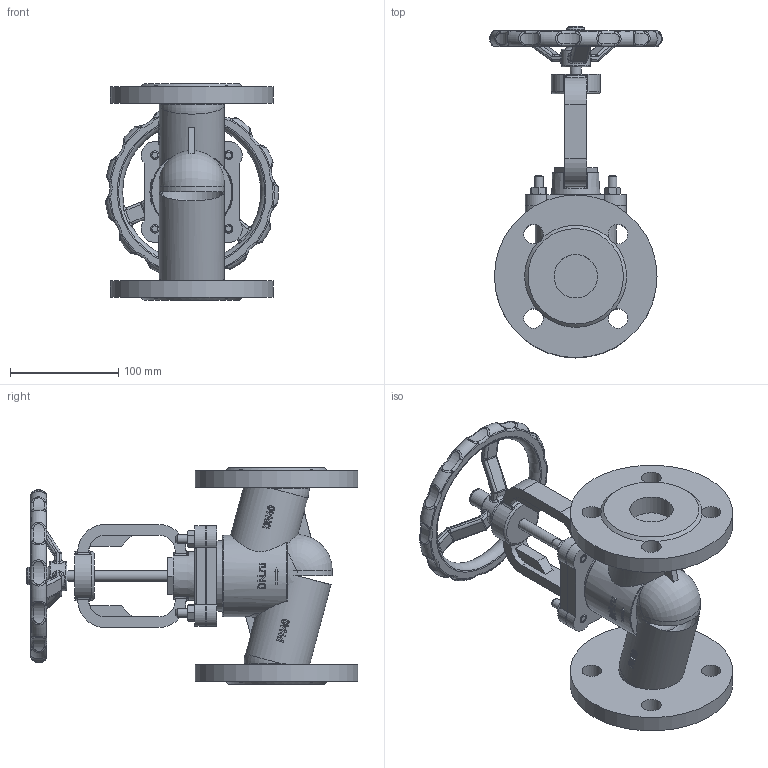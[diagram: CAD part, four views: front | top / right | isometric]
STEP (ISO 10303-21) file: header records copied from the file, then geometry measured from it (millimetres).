
FILE_DESCRIPTION(('STEP AP242'), '1');
FILE_NAME('VSO2130M-F-S 孰囡囗 玎镱痦 DN.ru 捏40 畜40', '2026-04-27T20:56:07', ('DN.ru'), (''), 'C3D Converter', 'C3D Toolkit', '');
FILE_SCHEMA(('AP242_MANAGED_MODEL_BASED_3D_ENGINEERING_MIM_LF { 1 0 10303 442 1 1 4 }'));
Length unit declared in the file: millimetre
Products named in the file (1): VSO2130M-F-S
Bounding box: 159.41 x 306 x 200 mm (x, y, z)
Volume: 1433650.8 mm3; surface area: 237387.5 mm2
Topology: 1 solids, 1 shells, 904 faces, 2302 edges, 1428 vertices
Faces by surface type: plane 261, extrusion 214, cylinder 153, torus 124, bspline 68, sphere 64, cone 20
Full cylindrical faces by diameter (mm): 8 x12, 10 x2, 16.26 x1, 18 x8, 20 x1, 27.1 x1, 40 x2, 45 x1, 60 x2, 65 x1, 75 x1, 150 x2
Entity records: 68165 total; most frequent: CARTESIAN_POINT 40762, ORIENTED_EDGE 4422, DIRECTION 3534, EDGE_CURVE 2211, VERTEX_POINT 1422, AXIS2_PLACEMENT_3D 1306, EDGE_LOOP 1047, B_SPLINE_CURVE_WITH_KNOTS 965
